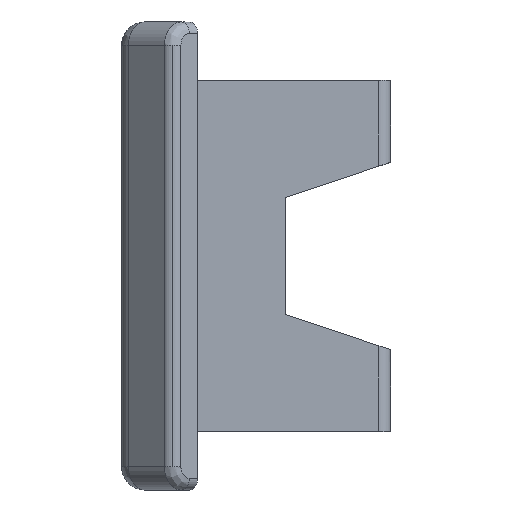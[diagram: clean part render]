
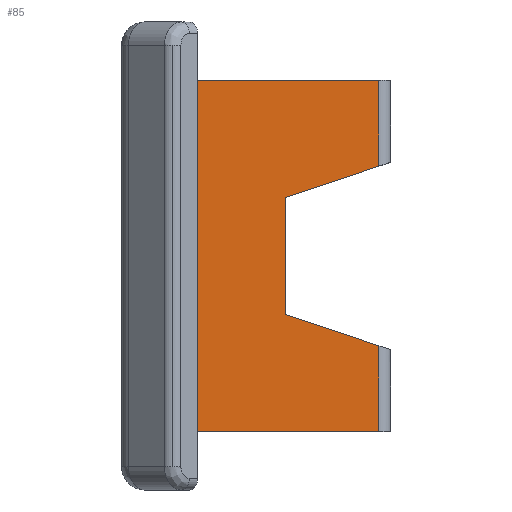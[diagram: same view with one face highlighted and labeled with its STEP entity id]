
A CAD part, left-side view. The second image highlights one B-rep face of the part: STEP entity #85.
In plain terms, the highlighted planar face has unit normal (-1, 0, 0).
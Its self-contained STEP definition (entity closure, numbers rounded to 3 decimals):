
#85 = ADVANCED_FACE ( 'NONE', ( #4685 ), #2760, .F. ) ;
#237 = ORIENTED_EDGE ( 'NONE', *, *, #450, .F. ) ;
#293 = EDGE_CURVE ( 'NONE', #518, #4619, #5067, .T. ) ;
#418 = CARTESIAN_POINT ( 'NONE',  ( -1., 0.5, 15. ) ) ;
#450 = EDGE_CURVE ( 'NONE', #3528, #4023, #3921, .T. ) ;
#518 = VERTEX_POINT ( 'NONE', #6558 ) ;
#566 = DIRECTION ( 'NONE',  ( 0., 0., -1. ) ) ;
#811 = ORIENTED_EDGE ( 'NONE', *, *, #4355, .F. ) ;
#950 = ORIENTED_EDGE ( 'NONE', *, *, #4020, .F. ) ;
#964 = ORIENTED_EDGE ( 'NONE', *, *, #2536, .F. ) ;
#990 = VERTEX_POINT ( 'NONE', #4964 ) ;
#1068 = LINE ( 'NONE', #5656, #3559 ) ;
#1105 = LINE ( 'NONE', #3421, #7134 ) ;
#1160 = VECTOR ( 'NONE', #3992, 1000. ) ;
#1184 = DIRECTION ( 'NONE',  ( 0., 1., 0. ) ) ;
#1329 = VECTOR ( 'NONE', #4638, 1000. ) ;
#1438 = ORIENTED_EDGE ( 'NONE', *, *, #4284, .F. ) ;
#1958 = ORIENTED_EDGE ( 'NONE', *, *, #3333, .F. ) ;
#1991 = CARTESIAN_POINT ( 'NONE',  ( -1., -19., 15. ) ) ;
#2247 = CARTESIAN_POINT ( 'NONE',  ( -1., -19., 15. ) ) ;
#2380 = CARTESIAN_POINT ( 'NONE',  ( -1., 1., 15. ) ) ;
#2536 = EDGE_CURVE ( 'NONE', #518, #5915, #6380, .T. ) ;
#2548 = DIRECTION ( 'NONE',  ( 0., -0.949, -0.316 ) ) ;
#2590 = CARTESIAN_POINT ( 'NONE',  ( -1., -19., -7.667 ) ) ;
#2605 = VECTOR ( 'NONE', #2548, 1000. ) ;
#2760 = PLANE ( 'NONE',  #6675 ) ;
#2889 = CARTESIAN_POINT ( 'NONE',  ( -1., -11., 5. ) ) ;
#3211 = VERTEX_POINT ( 'NONE', #4839 ) ;
#3333 = EDGE_CURVE ( 'NONE', #3211, #3528, #6890, .T. ) ;
#3421 = CARTESIAN_POINT ( 'NONE',  ( -1., -19., 7.667 ) ) ;
#3528 = VERTEX_POINT ( 'NONE', #2590 ) ;
#3553 = DIRECTION ( 'NONE',  ( 1., 0., 0. ) ) ;
#3559 = VECTOR ( 'NONE', #566, 1000. ) ;
#3629 = CARTESIAN_POINT ( 'NONE',  ( -1., -11., 15. ) ) ;
#3719 = CARTESIAN_POINT ( 'NONE',  ( -1., -11., -5. ) ) ;
#3921 = LINE ( 'NONE', #2247, #1329 ) ;
#3992 = DIRECTION ( 'NONE',  ( 0., 1., 0. ) ) ;
#4020 = EDGE_CURVE ( 'NONE', #6712, #3211, #7098, .T. ) ;
#4023 = VERTEX_POINT ( 'NONE', #4152 ) ;
#4152 = CARTESIAN_POINT ( 'NONE',  ( -1., -19., -15. ) ) ;
#4284 = EDGE_CURVE ( 'NONE', #4023, #4619, #4452, .T. ) ;
#4299 = ORIENTED_EDGE ( 'NONE', *, *, #7330, .F. ) ;
#4355 = EDGE_CURVE ( 'NONE', #990, #6712, #1105, .T. ) ;
#4452 = LINE ( 'NONE', #6360, #1160 ) ;
#4453 = DIRECTION ( 'NONE',  ( 0., 0., -1. ) ) ;
#4489 = DIRECTION ( 'NONE',  ( 0., 0.949, -0.316 ) ) ;
#4619 = VERTEX_POINT ( 'NONE', #5452 ) ;
#4638 = DIRECTION ( 'NONE',  ( 0., 0., -1. ) ) ;
#4685 = FACE_OUTER_BOUND ( 'NONE', #6421, .T. ) ;
#4839 = CARTESIAN_POINT ( 'NONE',  ( -1., -11., -5. ) ) ;
#4964 = CARTESIAN_POINT ( 'NONE',  ( -1., -19., 7.667 ) ) ;
#5067 = LINE ( 'NONE', #418, #6197 ) ;
#5452 = CARTESIAN_POINT ( 'NONE',  ( -1., 0.5, -15. ) ) ;
#5515 = VECTOR ( 'NONE', #6448, 1000. ) ;
#5656 = CARTESIAN_POINT ( 'NONE',  ( -1., -19., 15. ) ) ;
#5873 = DIRECTION ( 'NONE',  ( 0., -1., 0. ) ) ;
#5915 = VERTEX_POINT ( 'NONE', #1991 ) ;
#6197 = VECTOR ( 'NONE', #4453, 1000. ) ;
#6360 = CARTESIAN_POINT ( 'NONE',  ( -1., 1., -15. ) ) ;
#6380 = LINE ( 'NONE', #2380, #6510 ) ;
#6388 = ORIENTED_EDGE ( 'NONE', *, *, #293, .T. ) ;
#6421 = EDGE_LOOP ( 'NONE', ( #6388, #1438, #237, #1958, #950, #811, #4299, #964 ) ) ;
#6448 = DIRECTION ( 'NONE',  ( 0., 0., -1. ) ) ;
#6510 = VECTOR ( 'NONE', #5873, 1000. ) ;
#6558 = CARTESIAN_POINT ( 'NONE',  ( -1., 0.5, 15. ) ) ;
#6675 = AXIS2_PLACEMENT_3D ( 'NONE', #7019, #3553, #1184 ) ;
#6712 = VERTEX_POINT ( 'NONE', #2889 ) ;
#6890 = LINE ( 'NONE', #3719, #2605 ) ;
#7019 = CARTESIAN_POINT ( 'NONE',  ( -1., 1., 15. ) ) ;
#7098 = LINE ( 'NONE', #3629, #5515 ) ;
#7134 = VECTOR ( 'NONE', #4489, 1000. ) ;
#7330 = EDGE_CURVE ( 'NONE', #5915, #990, #1068, .T. ) ;
